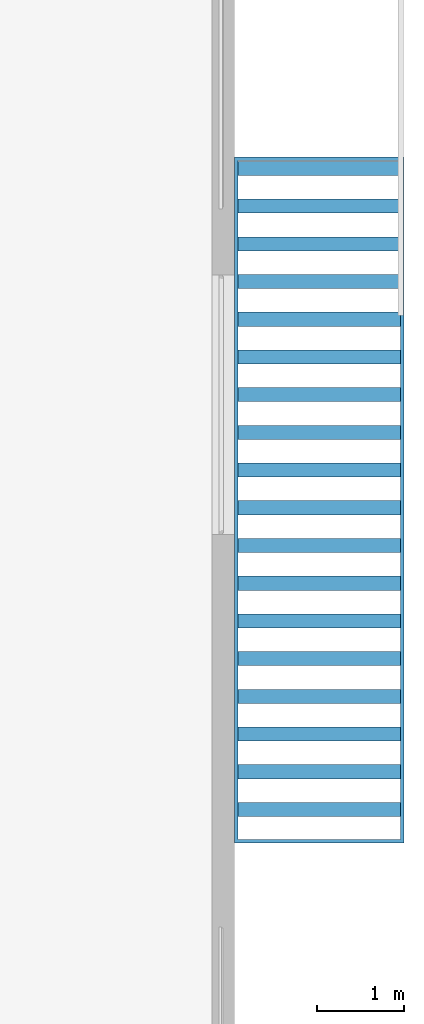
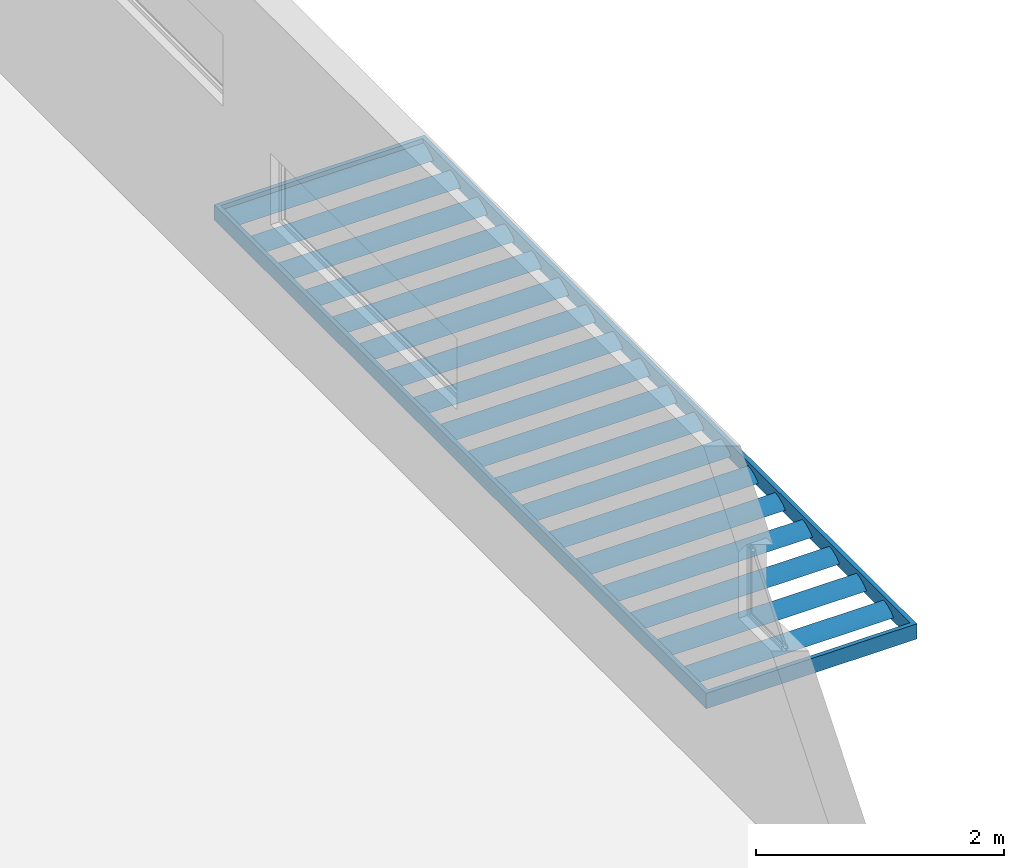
# One storey, part 13 of 14: 1 discrete accessory.
"""IFC2X3 building model written with IfcOpenShell, lengths in metres."""

import ifcopenshell
import ifcopenshell.guid

model = None  # the IFC model being written
_history = None  # IfcOwnerHistory: only IFC2X3 demands one
_inside = {}  # id of a spatial element -> (the spatial element, [elements in it])
_under = {}  # id of a project, library or spatial element -> (it, [spatial elements below it])
_declared = {}  # id of a project -> (the project, [libraries it declares])
_typed = {}  # id of a type object -> (the type object, [elements of that type])
_made_of = {}  # id of a material, layer set ... -> (it, [elements and type objects made of it])


def new_model(schema):
    """Start an empty IFC model of exactly this schema.

    Asked for "IFC4X3", IfcOpenShell would pick the latest addendum, in which some entities
    have other attributes; the version numbers below select the first issue.
    IFC2X3 requires an IfcOwnerHistory on every rooted entity: one is made here for all.
    """
    global model, _history
    if schema == "IFC4X3":
        model = ifcopenshell.file(schema_version=(4, 3, 0, 0))
    else:
        model = ifcopenshell.file(schema=schema)
    _inside.clear()
    _under.clear()
    _declared.clear()
    _typed.clear()
    _made_of.clear()
    _history = None
    if model.schema == "IFC2X3":
        org = make("IfcOrganization", Name="unknown")
        user = make(
            "IfcPersonAndOrganization",
            ThePerson=make("IfcPerson", FamilyName="unknown"),
            TheOrganization=org,
        )
        app = make(
            "IfcApplication",
            ApplicationDeveloper=org,
            Version="unknown",
            ApplicationFullName="unknown",
            ApplicationIdentifier="unknown",
        )
        _history = make(
            "IfcOwnerHistory",
            OwningUser=user,
            OwningApplication=app,
            ChangeAction="ADDED",
            CreationDate=0,
        )
    return model


def make(cls, **values):
    """One entity of the class cls with the attributes given. An attribute that is None is left unset."""
    return model.create_entity(
        cls, **{name: value for name, value in values.items() if value is not None}
    )


def entity(cls, *values):
    """Any entity or typed value of the class cls, its attributes in the order of the schema. None: left unset."""
    e = model.create_entity(cls)
    for i, value in enumerate(values):
        if value is not None:
            e[i] = value
    return e


def rooted(cls, **values):
    """An entity with a GlobalId (a new one), such as an element, a storey or a relation."""
    return make(cls, GlobalId=ifcopenshell.guid.new(), OwnerHistory=_history, **values)


def si_unit(unit_type, name, prefix=None):
    """IfcSIUnit, for example si_unit("LENGTHUNIT", "METRE", prefix="MILLI")."""
    return make("IfcSIUnit", UnitType=unit_type, Prefix=prefix, Name=name)


def converted_unit(unit_type, name, factor, base, dimensions=None, offset=None):
    """IfcConversionBasedUnit, such as the inch: factor (a typed value) times the base unit."""
    return make(
        "IfcConversionBasedUnit"
        if offset is None
        else "IfcConversionBasedUnitWithOffset",
        ConversionOffset=offset,
        Dimensions=None
        if dimensions is None
        else entity("IfcDimensionalExponents", *dimensions),
        UnitType=unit_type,
        Name=name,
        ConversionFactor=make(
            "IfcMeasureWithUnit", ValueComponent=factor, UnitComponent=base
        ),
    )


def money_unit(currency):
    """IfcMonetaryUnit."""
    return make("IfcMonetaryUnit", Currency=currency)


def assignment(units):
    """IfcUnitAssignment: the units of a project."""
    return None if units is None else make("IfcUnitAssignment", Units=units)


def point(xyz):
    """IfcCartesianPoint."""
    return None if xyz is None else make("IfcCartesianPoint", Coordinates=xyz)


def direction(xyz):
    """IfcDirection."""
    return None if xyz is None else make("IfcDirection", DirectionRatios=xyz)


def frame(location, z_axis=None, x_axis=None):
    """IfcAxis2Placement3D, a coordinate frame: its origin and axes. An axis left out is left unset."""
    return make(
        "IfcAxis2Placement3D",
        Location=point(location),
        Axis=direction(z_axis),
        RefDirection=direction(x_axis),
    )


def origin_with_axes():
    """The frame at (0, 0, 0) with the z axis (0, 0, 1) and the x axis (1, 0, 0) written out."""
    return frame((0.0, 0.0, 0.0), z_axis=(0.0, 0.0, 1.0), x_axis=(1.0, 0.0, 0.0))


def place(relative_to, where):
    """IfcLocalPlacement: puts the frame where relative to a parent placement (None: the world)."""
    return make(
        "IfcLocalPlacement", PlacementRelTo=relative_to, RelativePlacement=where
    )


def context(
    kind, dimensions, precision=None, world=None, true_north=None, identifier=None
):
    """IfcGeometricRepresentationContext, for example the 3D "Model" context."""
    return make(
        "IfcGeometricRepresentationContext",
        ContextIdentifier=identifier,
        ContextType=kind,
        CoordinateSpaceDimension=dimensions,
        Precision=precision,
        WorldCoordinateSystem=world,
        TrueNorth=true_north,
    )


def subcontext(parent, identifier, kind, view, scale=None):
    """IfcGeometricRepresentationSubContext, for example "Body" below "Model"."""
    return make(
        "IfcGeometricRepresentationSubContext",
        ContextIdentifier=identifier,
        ContextType=kind,
        ParentContext=parent,
        TargetScale=scale,
        TargetView=view,
    )


def project(units=None, contexts=None):
    """IfcProject with its units and contexts."""
    return rooted(
        "IfcProject",
        Name="project",
        RepresentationContexts=contexts,
        UnitsInContext=assignment(units),
    )


def spatial(cls, under=None, at=None, **own):
    """A site, building, storey or space (cls), placed at a placement, below another one or the project."""
    s = rooted(cls, ObjectPlacement=at, **own)
    if under is not None:
        _under.setdefault(under.id(), (under, []))[1].append(s)
    return s


def faces_of(points, faces, orient=None, outer=None):
    """IfcFace entities. A face is a list of loops; a loop is a list of indices into points, from 0.

    orient and outer hold one flag for each loop. By default every Orientation is true, the
    first loop of a face is its IfcFaceOuterBound and the others are IfcFaceBound.
    """
    made = []
    for i, loops in enumerate(faces):
        bounds = []
        for j, loop in enumerate(loops):
            is_outer = j == 0 if outer is None else outer[i][j]
            bounds.append(
                make(
                    "IfcFaceOuterBound" if is_outer else "IfcFaceBound",
                    Bound=make("IfcPolyLoop", Polygon=[points[k] for k in loop]),
                    Orientation=True if orient is None else orient[i][j],
                )
            )
        made.append(make("IfcFace", Bounds=bounds))
    return made


def faceted_brep(points, faces, orient=None, outer=None, voids=None):
    """IfcFacetedBrep: a solid bounded by flat faces; with voids (closed shells), ...WithVoids."""
    shared = [point(p) for p in points]
    hull = make("IfcClosedShell", CfsFaces=faces_of(shared, faces, orient, outer))
    if voids is None:
        return make("IfcFacetedBrep", Outer=hull)
    return make(
        "IfcFacetedBrepWithVoids",
        Outer=hull,
        Voids=[
            make(cls, CfsFaces=faces_of(shared, fs, o, b)) for cls, fs, o, b in voids
        ],
    )


def shape(context_of_items, identifier, shape_type, items):
    """IfcShapeRepresentation: the items that make up one representation, for example the "Body"."""
    return make(
        "IfcShapeRepresentation",
        ContextOfItems=context_of_items,
        RepresentationIdentifier=identifier,
        RepresentationType=shape_type,
        Items=items,
    )


def material(Name=None, Category=None):
    """IfcMaterial."""
    return make("IfcMaterial", Name=Name, Category=Category)


def made_of(thing, what):
    """Note that an element or type object is made of a material, layer set ...; save() writes the relation."""
    if what is not None:
        _made_of.setdefault(what.id(), (what, []))[1].append(thing)
    return thing


def type_object(cls, material=None, **own):
    """A type object (cls), such as IfcWallType, which elements share."""
    return made_of(rooted(cls, **own), material)


def element(
    cls,
    number,
    at=None,
    inside=None,
    cuts=None,
    type_object=None,
    material=None,
    context=None,
    identifier="Body",
    shape_type=None,
    held_by="IfcProductDefinitionShape",
    body=None,
    shapes=None,
    **own,
):
    """One element of the class cls, such as IfcWall. Its Tag is "e" and its number.

    at: its placement. inside: the storey or other place that contains it. cuts: it is an
    opening in that element (IfcRelVoidsElement). A single representation is given by context,
    identifier, shape_type and body (its items); several are given by shapes. held_by: the class
    of the entity that holds the representations. save() writes the other relations.
    """
    e = rooted(cls, Tag="e%d" % number, ObjectPlacement=at, **own)
    if body is not None:
        shapes = [shape(context, identifier, shape_type, body)]
    if shapes is not None:
        e.Representation = make(held_by, Representations=shapes)
    if inside is not None:
        _inside.setdefault(inside.id(), (inside, []))[1].append(e)
    if cuts is not None:
        rooted(
            "IfcRelVoidsElement", RelatingBuildingElement=cuts, RelatedOpeningElement=e
        )
    if type_object is not None:
        _typed.setdefault(type_object.id(), (type_object, []))[1].append(e)
    return made_of(e, material)


def aggregate(whole, parts):
    """IfcRelAggregates: a whole, such as a stair, and the parts it consists of."""
    return rooted("IfcRelAggregates", RelatingObject=whole, RelatedObjects=parts)


def save(model, path):
    """Write the relations noted so far, then the file.

    IfcRelAggregates (storeys below a building ...), IfcRelContainedInSpatialStructure (elements
    in a storey), IfcRelDefinesByType, IfcRelAssociatesMaterial and IfcRelDeclares: one each for
    every whole, place, type object, material and project.
    """
    for whole, parts in _under.values():
        aggregate(whole, parts)
    for where, things in _inside.values():
        rooted(
            "IfcRelContainedInSpatialStructure",
            RelatedElements=things,
            RelatingStructure=where,
        )
    for kind, things in _typed.values():
        rooted("IfcRelDefinesByType", RelatedObjects=things, RelatingType=kind)
    for what, things in _made_of.values():
        rooted("IfcRelAssociatesMaterial", RelatedObjects=things, RelatingMaterial=what)
    for by, libraries in _declared.values():
        rooted("IfcRelDeclares", RelatingContext=by, RelatedDefinitions=libraries)
    model.write(path)


model = new_model("IFC2X3")

# Units and contexts
model_context = context("Model", 3, precision=1e-05, world=origin_with_axes(), true_north=direction((0.0, 1.0)))
body_context = subcontext(model_context, "Body", "Model", "MODEL_VIEW")
ifc_project = project(units=[si_unit("LENGTHUNIT", "METRE"), si_unit("AREAUNIT", "SQUARE_METRE"), si_unit("VOLUMEUNIT", "CUBIC_METRE"), converted_unit("PLANEANGLEUNIT", "DEGREE", entity("IfcPlaneAngleMeasure", 0.0174532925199), si_unit("PLANEANGLEUNIT", "RADIAN"), dimensions=[0, 0, 0, 0, 0, 0, 0]), si_unit("SOLIDANGLEUNIT", "STERADIAN"), money_unit("EUR"), converted_unit("TIMEUNIT", "Year", entity("IfcTimeMeasure", 31556926.0), si_unit("TIMEUNIT", "SECOND"), dimensions=[0, 0, 0, 0, 0, 0, 0]), si_unit("MASSUNIT", "GRAM"), si_unit("THERMODYNAMICTEMPERATUREUNIT", "DEGREE_CELSIUS"), si_unit("LUMINOUSINTENSITYUNIT", "LUMEN")], contexts=[model_context])

# Site, building, storey
site_placement = place(None, origin_with_axes())
site = spatial("IfcSite", under=ifc_project, at=site_placement, Name="Site", CompositionType="ELEMENT")
building_placement = place(site_placement, origin_with_axes())
building = spatial("IfcBuilding", under=site, at=building_placement, Name="Bâtiment", CompositionType="ELEMENT")
storey_placement = place(building_placement, frame((0.0, 0.0, 3.0), z_axis=(0.0, 0.0, 1.0), x_axis=(1.0, 0.0, 0.0)))
storey = spatial("IfcBuildingStorey", under=building, at=storey_placement, Name="NIVEAU HAUT ENTRÉE", CompositionType="ELEMENT", Elevation=3.0)

# Discrete accessory
ifc_material = material(Name="Sans Trame")
discrete_accessory_type = type_object("IfcDiscreteAccessoryType", Name="Par soleil droit 10")
discrete_accessory_placement = place(storey_placement, frame((67.258457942, 10.1204598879, 0.356398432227), z_axis=(0.0, 0.0, 1.0), x_axis=(1.0, 0.0, 0.0)))
element("IfcDiscreteAccessory", 1, at=discrete_accessory_placement, inside=storey, type_object=discrete_accessory_type, material=ifc_material, Name="MOB-0009", context=body_context, shape_type="Brep", body=[
    faceted_brep([(0.04, 0.02, -0.075), (0.0, 0.02, -0.075), (0.0, 7.863911, -0.075), (0.04, 7.863911, -0.075), (0.04, 0.02, 0.075), (0.0, 0.02, 0.075), (0.0, 7.863911, 0.075), (0.04, 7.863911, 0.075)], [[[0, 1, 2, 3]], [[1, 0, 4, 5]], [[2, 1, 5, 6]], [[3, 2, 6, 7]], [[0, 3, 7, 4]], [[5, 4, 7, 6]]]),
    faceted_brep([(1.9583, 0.02, -0.075), (1.9183, 0.02, -0.075), (1.9183, 7.863911, -0.075), (1.9583, 7.863911, -0.075), (1.9583, 0.02, 0.075), (1.9183, 0.02, 0.075), (1.9183, 7.863911, 0.075), (1.9583, 7.863911, 0.075)], [[[0, 1, 2, 3]], [[1, 0, 4, 5]], [[2, 1, 5, 6]], [[3, 2, 6, 7]], [[0, 3, 7, 4]], [[5, 4, 7, 6]]]),
    faceted_brep([(1.9583, -0.02, -0.075), (0.0, -0.02, -0.075), (0.0, 0.02, -0.075), (1.9583, 0.02, -0.075), (1.9583, -0.02, 0.075), (0.0, -0.02, 0.075), (0.0, 0.02, 0.075), (1.9583, 0.02, 0.075)], [[[0, 1, 2, 3]], [[1, 0, 4, 5]], [[2, 1, 5, 6]], [[3, 2, 6, 7]], [[0, 3, 7, 4]], [[5, 4, 7, 6]]]),
    faceted_brep([(1.9583, 7.863911, -0.075), (0.0, 7.863911, -0.075), (0.0, 7.903911, -0.075), (1.9583, 7.903911, -0.075), (1.9583, 7.863911, 0.075), (0.0, 7.863911, 0.075), (0.0, 7.903911, 0.075), (1.9583, 7.903911, 0.075)], [[[0, 1, 2, 3]], [[1, 0, 4, 5]], [[2, 1, 5, 6]], [[3, 2, 6, 7]], [[0, 3, 7, 4]], [[5, 4, 7, 6]]]),
    faceted_brep([(0.04, 0.315621, -0.03442), (0.04, 0.344923, -0.026273), (1.9183, 0.344923, -0.026273), (1.9183, 0.315621, -0.03442), (0.04, 0.284205, -0.038036), (0.04, 0.307168, -0.016294), (0.04, 0.332244, 0.000916), (0.04, 0.386623, 0.026273), (0.04, 0.415925, 0.03442), (0.04, 0.447341, 0.038036), (0.04, 0.424378, 0.016294), (0.04, 0.399301, -0.000916), (1.9183, 0.399301, -0.000916), (1.9183, 0.424378, 0.016294), (1.9183, 0.447341, 0.038036), (1.9183, 0.415925, 0.03442), (1.9183, 0.386623, 0.026273), (1.9183, 0.332244, 0.000916), (1.9183, 0.307168, -0.016294), (1.9183, 0.284205, -0.038036)], [[[0, 1, 2, 3]], [[0, 4, 5, 6, 7, 8, 9, 10, 11, 1]], [[1, 11, 12, 2]], [[3, 2, 12, 13, 14, 15, 16, 17, 18, 19]], [[4, 0, 3, 19]], [[5, 4, 19, 18]], [[6, 5, 18, 17]], [[7, 6, 17, 16]], [[8, 7, 16, 15]], [[9, 8, 15, 14]], [[10, 9, 14, 13]], [[11, 10, 13, 12]]]),
    faceted_brep([(0.04, 0.751393, -0.03442), (0.04, 0.780696, -0.026273), (1.9183, 0.780696, -0.026273), (1.9183, 0.751393, -0.03442), (0.04, 0.719978, -0.038036), (0.04, 0.742941, -0.016294), (0.04, 0.768017, 0.000916), (0.04, 0.822396, 0.026273), (0.04, 0.851698, 0.03442), (0.04, 0.883113, 0.038036), (0.04, 0.86015, 0.016294), (0.04, 0.835074, -0.000916), (1.9183, 0.835074, -0.000916), (1.9183, 0.86015, 0.016294), (1.9183, 0.883113, 0.038036), (1.9183, 0.851698, 0.03442), (1.9183, 0.822396, 0.026273), (1.9183, 0.768017, 0.000916), (1.9183, 0.742941, -0.016294), (1.9183, 0.719978, -0.038036)], [[[0, 1, 2, 3]], [[0, 4, 5, 6, 7, 8, 9, 10, 11, 1]], [[1, 11, 12, 2]], [[3, 2, 12, 13, 14, 15, 16, 17, 18, 19]], [[4, 0, 3, 19]], [[5, 4, 19, 18]], [[6, 5, 18, 17]], [[7, 6, 17, 16]], [[8, 7, 16, 15]], [[9, 8, 15, 14]], [[10, 9, 14, 13]], [[11, 10, 13, 12]]]),
    faceted_brep([(0.04, 1.187166, -0.03442), (0.04, 1.216469, -0.026273), (1.9183, 1.216469, -0.026273), (1.9183, 1.187166, -0.03442), (0.04, 1.155751, -0.038036), (0.04, 1.178714, -0.016294), (0.04, 1.20379, 0.000916), (0.04, 1.258169, 0.026273), (0.04, 1.287471, 0.03442), (0.04, 1.318886, 0.038036), (0.04, 1.295923, 0.016294), (0.04, 1.270847, -0.000916), (1.9183, 1.270847, -0.000916), (1.9183, 1.295923, 0.016294), (1.9183, 1.318886, 0.038036), (1.9183, 1.287471, 0.03442), (1.9183, 1.258169, 0.026273), (1.9183, 1.20379, 0.000916), (1.9183, 1.178714, -0.016294), (1.9183, 1.155751, -0.038036)], [[[0, 1, 2, 3]], [[0, 4, 5, 6, 7, 8, 9, 10, 11, 1]], [[1, 11, 12, 2]], [[3, 2, 12, 13, 14, 15, 16, 17, 18, 19]], [[4, 0, 3, 19]], [[5, 4, 19, 18]], [[6, 5, 18, 17]], [[7, 6, 17, 16]], [[8, 7, 16, 15]], [[9, 8, 15, 14]], [[10, 9, 14, 13]], [[11, 10, 13, 12]]]),
    faceted_brep([(0.04, 1.622939, -0.03442), (0.04, 1.652241, -0.026273), (1.9183, 1.652241, -0.026273), (1.9183, 1.622939, -0.03442), (0.04, 1.591524, -0.038036), (0.04, 1.614487, -0.016294), (0.04, 1.639563, 0.000916), (0.04, 1.693941, 0.026273), (0.04, 1.723244, 0.03442), (0.04, 1.754659, 0.038036), (0.04, 1.731696, 0.016294), (0.04, 1.70662, -0.000916), (1.9183, 1.70662, -0.000916), (1.9183, 1.731696, 0.016294), (1.9183, 1.754659, 0.038036), (1.9183, 1.723244, 0.03442), (1.9183, 1.693941, 0.026273), (1.9183, 1.639563, 0.000916), (1.9183, 1.614487, -0.016294), (1.9183, 1.591524, -0.038036)], [[[0, 1, 2, 3]], [[0, 4, 5, 6, 7, 8, 9, 10, 11, 1]], [[1, 11, 12, 2]], [[3, 2, 12, 13, 14, 15, 16, 17, 18, 19]], [[4, 0, 3, 19]], [[5, 4, 19, 18]], [[6, 5, 18, 17]], [[7, 6, 17, 16]], [[8, 7, 16, 15]], [[9, 8, 15, 14]], [[10, 9, 14, 13]], [[11, 10, 13, 12]]]),
    faceted_brep([(0.04, 2.058712, -0.03442), (0.04, 2.088014, -0.026273), (1.9183, 2.088014, -0.026273), (1.9183, 2.058712, -0.03442), (0.04, 2.027297, -0.038036), (0.04, 2.05026, -0.016294), (0.04, 2.075336, 0.000916), (0.04, 2.129714, 0.026273), (0.04, 2.159017, 0.03442), (0.04, 2.190432, 0.038036), (0.04, 2.167469, 0.016294), (0.04, 2.142393, -0.000916), (1.9183, 2.142393, -0.000916), (1.9183, 2.167469, 0.016294), (1.9183, 2.190432, 0.038036), (1.9183, 2.159017, 0.03442), (1.9183, 2.129714, 0.026273), (1.9183, 2.075336, 0.000916), (1.9183, 2.05026, -0.016294), (1.9183, 2.027297, -0.038036)], [[[0, 1, 2, 3]], [[0, 4, 5, 6, 7, 8, 9, 10, 11, 1]], [[1, 11, 12, 2]], [[3, 2, 12, 13, 14, 15, 16, 17, 18, 19]], [[4, 0, 3, 19]], [[5, 4, 19, 18]], [[6, 5, 18, 17]], [[7, 6, 17, 16]], [[8, 7, 16, 15]], [[9, 8, 15, 14]], [[10, 9, 14, 13]], [[11, 10, 13, 12]]]),
    faceted_brep([(0.04, 2.494485, -0.03442), (0.04, 2.523787, -0.026273), (1.9183, 2.523787, -0.026273), (1.9183, 2.494485, -0.03442), (0.04, 2.463069, -0.038036), (0.04, 2.486032, -0.016294), (0.04, 2.511109, 0.000916), (0.04, 2.565487, 0.026273), (0.04, 2.594789, 0.03442), (0.04, 2.626205, 0.038036), (0.04, 2.603242, 0.016294), (0.04, 2.578166, -0.000916), (1.9183, 2.578166, -0.000916), (1.9183, 2.603242, 0.016294), (1.9183, 2.626205, 0.038036), (1.9183, 2.594789, 0.03442), (1.9183, 2.565487, 0.026273), (1.9183, 2.511109, 0.000916), (1.9183, 2.486032, -0.016294), (1.9183, 2.463069, -0.038036)], [[[0, 1, 2, 3]], [[0, 4, 5, 6, 7, 8, 9, 10, 11, 1]], [[1, 11, 12, 2]], [[3, 2, 12, 13, 14, 15, 16, 17, 18, 19]], [[4, 0, 3, 19]], [[5, 4, 19, 18]], [[6, 5, 18, 17]], [[7, 6, 17, 16]], [[8, 7, 16, 15]], [[9, 8, 15, 14]], [[10, 9, 14, 13]], [[11, 10, 13, 12]]]),
    faceted_brep([(0.04, 2.930258, -0.03442), (0.04, 2.95956, -0.026273), (1.9183, 2.95956, -0.026273), (1.9183, 2.930258, -0.03442), (0.04, 2.898842, -0.038036), (0.04, 2.921805, -0.016294), (0.04, 2.946881, 0.000916), (0.04, 3.00126, 0.026273), (0.04, 3.030562, 0.03442), (0.04, 3.061978, 0.038036), (0.04, 3.039015, 0.016294), (0.04, 3.013938, -0.000916), (1.9183, 3.013938, -0.000916), (1.9183, 3.039015, 0.016294), (1.9183, 3.061978, 0.038036), (1.9183, 3.030562, 0.03442), (1.9183, 3.00126, 0.026273), (1.9183, 2.946881, 0.000916), (1.9183, 2.921805, -0.016294), (1.9183, 2.898842, -0.038036)], [[[0, 1, 2, 3]], [[0, 4, 5, 6, 7, 8, 9, 10, 11, 1]], [[1, 11, 12, 2]], [[3, 2, 12, 13, 14, 15, 16, 17, 18, 19]], [[4, 0, 3, 19]], [[5, 4, 19, 18]], [[6, 5, 18, 17]], [[7, 6, 17, 16]], [[8, 7, 16, 15]], [[9, 8, 15, 14]], [[10, 9, 14, 13]], [[11, 10, 13, 12]]]),
    faceted_brep([(0.04, 3.366031, -0.03442), (0.04, 3.395333, -0.026273), (1.9183, 3.395333, -0.026273), (1.9183, 3.366031, -0.03442), (0.04, 3.334615, -0.038036), (0.04, 3.357578, -0.016294), (0.04, 3.382654, 0.000916), (0.04, 3.437033, 0.026273), (0.04, 3.466335, 0.03442), (0.04, 3.497751, 0.038036), (0.04, 3.474787, 0.016294), (0.04, 3.449711, -0.000916), (1.9183, 3.449711, -0.000916), (1.9183, 3.474787, 0.016294), (1.9183, 3.497751, 0.038036), (1.9183, 3.466335, 0.03442), (1.9183, 3.437033, 0.026273), (1.9183, 3.382654, 0.000916), (1.9183, 3.357578, -0.016294), (1.9183, 3.334615, -0.038036)], [[[0, 1, 2, 3]], [[0, 4, 5, 6, 7, 8, 9, 10, 11, 1]], [[1, 11, 12, 2]], [[3, 2, 12, 13, 14, 15, 16, 17, 18, 19]], [[4, 0, 3, 19]], [[5, 4, 19, 18]], [[6, 5, 18, 17]], [[7, 6, 17, 16]], [[8, 7, 16, 15]], [[9, 8, 15, 14]], [[10, 9, 14, 13]], [[11, 10, 13, 12]]]),
    faceted_brep([(0.04, 3.801803, -0.03442), (0.04, 3.831106, -0.026273), (1.9183, 3.831106, -0.026273), (1.9183, 3.801803, -0.03442), (0.04, 3.770388, -0.038036), (0.04, 3.793351, -0.016294), (0.04, 3.818427, 0.000916), (0.04, 3.872806, 0.026273), (0.04, 3.902108, 0.03442), (0.04, 3.933523, 0.038036), (0.04, 3.91056, 0.016294), (0.04, 3.885484, -0.000916), (1.9183, 3.885484, -0.000916), (1.9183, 3.91056, 0.016294), (1.9183, 3.933523, 0.038036), (1.9183, 3.902108, 0.03442), (1.9183, 3.872806, 0.026273), (1.9183, 3.818427, 0.000916), (1.9183, 3.793351, -0.016294), (1.9183, 3.770388, -0.038036)], [[[0, 1, 2, 3]], [[0, 4, 5, 6, 7, 8, 9, 10, 11, 1]], [[1, 11, 12, 2]], [[3, 2, 12, 13, 14, 15, 16, 17, 18, 19]], [[4, 0, 3, 19]], [[5, 4, 19, 18]], [[6, 5, 18, 17]], [[7, 6, 17, 16]], [[8, 7, 16, 15]], [[9, 8, 15, 14]], [[10, 9, 14, 13]], [[11, 10, 13, 12]]]),
    faceted_brep([(0.04, 4.237576, -0.03442), (0.04, 4.266879, -0.026273), (1.9183, 4.266879, -0.026273), (1.9183, 4.237576, -0.03442), (0.04, 4.206161, -0.038036), (0.04, 4.229124, -0.016294), (0.04, 4.2542, 0.000916), (0.04, 4.308579, 0.026273), (0.04, 4.337881, 0.03442), (0.04, 4.369296, 0.038036), (0.04, 4.346333, 0.016294), (0.04, 4.321257, -0.000916), (1.9183, 4.321257, -0.000916), (1.9183, 4.346333, 0.016294), (1.9183, 4.369296, 0.038036), (1.9183, 4.337881, 0.03442), (1.9183, 4.308579, 0.026273), (1.9183, 4.2542, 0.000916), (1.9183, 4.229124, -0.016294), (1.9183, 4.206161, -0.038036)], [[[0, 1, 2, 3]], [[0, 4, 5, 6, 7, 8, 9, 10, 11, 1]], [[1, 11, 12, 2]], [[3, 2, 12, 13, 14, 15, 16, 17, 18, 19]], [[4, 0, 3, 19]], [[5, 4, 19, 18]], [[6, 5, 18, 17]], [[7, 6, 17, 16]], [[8, 7, 16, 15]], [[9, 8, 15, 14]], [[10, 9, 14, 13]], [[11, 10, 13, 12]]]),
    faceted_brep([(0.04, 4.673349, -0.03442), (0.04, 4.702651, -0.026273), (1.9183, 4.702651, -0.026273), (1.9183, 4.673349, -0.03442), (0.04, 4.641934, -0.038036), (0.04, 4.664897, -0.016294), (0.04, 4.689973, 0.000916), (0.04, 4.744351, 0.026273), (0.04, 4.773654, 0.03442), (0.04, 4.805069, 0.038036), (0.04, 4.782106, 0.016294), (0.04, 4.75703, -0.000916), (1.9183, 4.75703, -0.000916), (1.9183, 4.782106, 0.016294), (1.9183, 4.805069, 0.038036), (1.9183, 4.773654, 0.03442), (1.9183, 4.744351, 0.026273), (1.9183, 4.689973, 0.000916), (1.9183, 4.664897, -0.016294), (1.9183, 4.641934, -0.038036)], [[[0, 1, 2, 3]], [[0, 4, 5, 6, 7, 8, 9, 10, 11, 1]], [[1, 11, 12, 2]], [[3, 2, 12, 13, 14, 15, 16, 17, 18, 19]], [[4, 0, 3, 19]], [[5, 4, 19, 18]], [[6, 5, 18, 17]], [[7, 6, 17, 16]], [[8, 7, 16, 15]], [[9, 8, 15, 14]], [[10, 9, 14, 13]], [[11, 10, 13, 12]]]),
    faceted_brep([(0.04, 5.109122, -0.03442), (0.04, 5.138424, -0.026273), (1.9183, 5.138424, -0.026273), (1.9183, 5.109122, -0.03442), (0.04, 5.077707, -0.038036), (0.04, 5.10067, -0.016294), (0.04, 5.125746, 0.000916), (0.04, 5.180124, 0.026273), (0.04, 5.209427, 0.03442), (0.04, 5.240842, 0.038036), (0.04, 5.217879, 0.016294), (0.04, 5.192803, -0.000916), (1.9183, 5.192803, -0.000916), (1.9183, 5.217879, 0.016294), (1.9183, 5.240842, 0.038036), (1.9183, 5.209427, 0.03442), (1.9183, 5.180124, 0.026273), (1.9183, 5.125746, 0.000916), (1.9183, 5.10067, -0.016294), (1.9183, 5.077707, -0.038036)], [[[0, 1, 2, 3]], [[0, 4, 5, 6, 7, 8, 9, 10, 11, 1]], [[1, 11, 12, 2]], [[3, 2, 12, 13, 14, 15, 16, 17, 18, 19]], [[4, 0, 3, 19]], [[5, 4, 19, 18]], [[6, 5, 18, 17]], [[7, 6, 17, 16]], [[8, 7, 16, 15]], [[9, 8, 15, 14]], [[10, 9, 14, 13]], [[11, 10, 13, 12]]]),
    faceted_brep([(0.04, 5.544895, -0.03442), (0.04, 5.574197, -0.026273), (1.9183, 5.574197, -0.026273), (1.9183, 5.544895, -0.03442), (0.04, 5.513479, -0.038036), (0.04, 5.536442, -0.016294), (0.04, 5.561519, 0.000916), (0.04, 5.615897, 0.026273), (0.04, 5.645199, 0.03442), (0.04, 5.676615, 0.038036), (0.04, 5.653652, 0.016294), (0.04, 5.628576, -0.000916), (1.9183, 5.628576, -0.000916), (1.9183, 5.653652, 0.016294), (1.9183, 5.676615, 0.038036), (1.9183, 5.645199, 0.03442), (1.9183, 5.615897, 0.026273), (1.9183, 5.561519, 0.000916), (1.9183, 5.536442, -0.016294), (1.9183, 5.513479, -0.038036)], [[[0, 1, 2, 3]], [[0, 4, 5, 6, 7, 8, 9, 10, 11, 1]], [[1, 11, 12, 2]], [[3, 2, 12, 13, 14, 15, 16, 17, 18, 19]], [[4, 0, 3, 19]], [[5, 4, 19, 18]], [[6, 5, 18, 17]], [[7, 6, 17, 16]], [[8, 7, 16, 15]], [[9, 8, 15, 14]], [[10, 9, 14, 13]], [[11, 10, 13, 12]]]),
    faceted_brep([(0.04, 5.980668, -0.03442), (0.04, 6.00997, -0.026273), (1.9183, 6.00997, -0.026273), (1.9183, 5.980668, -0.03442), (0.04, 5.949252, -0.038036), (0.04, 5.972215, -0.016294), (0.04, 5.997291, 0.000916), (0.04, 6.05167, 0.026273), (0.04, 6.080972, 0.03442), (0.04, 6.112388, 0.038036), (0.04, 6.089425, 0.016294), (0.04, 6.064348, -0.000916), (1.9183, 6.064348, -0.000916), (1.9183, 6.089425, 0.016294), (1.9183, 6.112388, 0.038036), (1.9183, 6.080972, 0.03442), (1.9183, 6.05167, 0.026273), (1.9183, 5.997291, 0.000916), (1.9183, 5.972215, -0.016294), (1.9183, 5.949252, -0.038036)], [[[0, 1, 2, 3]], [[0, 4, 5, 6, 7, 8, 9, 10, 11, 1]], [[1, 11, 12, 2]], [[3, 2, 12, 13, 14, 15, 16, 17, 18, 19]], [[4, 0, 3, 19]], [[5, 4, 19, 18]], [[6, 5, 18, 17]], [[7, 6, 17, 16]], [[8, 7, 16, 15]], [[9, 8, 15, 14]], [[10, 9, 14, 13]], [[11, 10, 13, 12]]]),
    faceted_brep([(0.04, 6.416441, -0.03442), (0.04, 6.445743, -0.026273), (1.9183, 6.445743, -0.026273), (1.9183, 6.416441, -0.03442), (0.04, 6.385025, -0.038036), (0.04, 6.407988, -0.016294), (0.04, 6.433064, 0.000916), (0.04, 6.487443, 0.026273), (0.04, 6.516745, 0.03442), (0.04, 6.548161, 0.038036), (0.04, 6.525197, 0.016294), (0.04, 6.500121, -0.000916), (1.9183, 6.500121, -0.000916), (1.9183, 6.525197, 0.016294), (1.9183, 6.548161, 0.038036), (1.9183, 6.516745, 0.03442), (1.9183, 6.487443, 0.026273), (1.9183, 6.433064, 0.000916), (1.9183, 6.407988, -0.016294), (1.9183, 6.385025, -0.038036)], [[[0, 1, 2, 3]], [[0, 4, 5, 6, 7, 8, 9, 10, 11, 1]], [[1, 11, 12, 2]], [[3, 2, 12, 13, 14, 15, 16, 17, 18, 19]], [[4, 0, 3, 19]], [[5, 4, 19, 18]], [[6, 5, 18, 17]], [[7, 6, 17, 16]], [[8, 7, 16, 15]], [[9, 8, 15, 14]], [[10, 9, 14, 13]], [[11, 10, 13, 12]]]),
    faceted_brep([(0.04, 6.852213, -0.03442), (0.04, 6.881516, -0.026273), (1.9183, 6.881516, -0.026273), (1.9183, 6.852213, -0.03442), (0.04, 6.820798, -0.038036), (0.04, 6.843761, -0.016294), (0.04, 6.868837, 0.000916), (0.04, 6.923216, 0.026273), (0.04, 6.952518, 0.03442), (0.04, 6.983933, 0.038036), (0.04, 6.96097, 0.016294), (0.04, 6.935894, -0.000916), (1.9183, 6.935894, -0.000916), (1.9183, 6.96097, 0.016294), (1.9183, 6.983933, 0.038036), (1.9183, 6.952518, 0.03442), (1.9183, 6.923216, 0.026273), (1.9183, 6.868837, 0.000916), (1.9183, 6.843761, -0.016294), (1.9183, 6.820798, -0.038036)], [[[0, 1, 2, 3]], [[0, 4, 5, 6, 7, 8, 9, 10, 11, 1]], [[1, 11, 12, 2]], [[3, 2, 12, 13, 14, 15, 16, 17, 18, 19]], [[4, 0, 3, 19]], [[5, 4, 19, 18]], [[6, 5, 18, 17]], [[7, 6, 17, 16]], [[8, 7, 16, 15]], [[9, 8, 15, 14]], [[10, 9, 14, 13]], [[11, 10, 13, 12]]]),
    faceted_brep([(0.04, 7.287986, -0.03442), (0.04, 7.317289, -0.026273), (1.9183, 7.317289, -0.026273), (1.9183, 7.287986, -0.03442), (0.04, 7.256571, -0.038036), (0.04, 7.279534, -0.016294), (0.04, 7.30461, 0.000916), (0.04, 7.358988, 0.026273), (0.04, 7.388291, 0.03442), (0.04, 7.419706, 0.038036), (0.04, 7.396743, 0.016294), (0.04, 7.371667, -0.000916), (1.9183, 7.371667, -0.000916), (1.9183, 7.396743, 0.016294), (1.9183, 7.419706, 0.038036), (1.9183, 7.388291, 0.03442), (1.9183, 7.358988, 0.026273), (1.9183, 7.30461, 0.000916), (1.9183, 7.279534, -0.016294), (1.9183, 7.256571, -0.038036)], [[[0, 1, 2, 3]], [[0, 4, 5, 6, 7, 8, 9, 10, 11, 1]], [[1, 11, 12, 2]], [[3, 2, 12, 13, 14, 15, 16, 17, 18, 19]], [[4, 0, 3, 19]], [[5, 4, 19, 18]], [[6, 5, 18, 17]], [[7, 6, 17, 16]], [[8, 7, 16, 15]], [[9, 8, 15, 14]], [[10, 9, 14, 13]], [[11, 10, 13, 12]]]),
    faceted_brep([(0.04, 7.723759, -0.03442), (0.04, 7.753061, -0.026273), (1.9183, 7.753061, -0.026273), (1.9183, 7.723759, -0.03442), (0.04, 7.692344, -0.038036), (0.04, 7.715307, -0.016294), (0.04, 7.740383, 0.000916), (0.04, 7.794761, 0.026273), (0.04, 7.824064, 0.03442), (0.04, 7.855479, 0.038036), (0.04, 7.832516, 0.016294), (0.04, 7.80744, -0.000916), (1.9183, 7.80744, -0.000916), (1.9183, 7.832516, 0.016294), (1.9183, 7.855479, 0.038036), (1.9183, 7.824064, 0.03442), (1.9183, 7.794761, 0.026273), (1.9183, 7.740383, 0.000916), (1.9183, 7.715307, -0.016294), (1.9183, 7.692344, -0.038036)], [[[0, 1, 2, 3]], [[0, 4, 5, 6, 7, 8, 9, 10, 11, 1]], [[1, 11, 12, 2]], [[3, 2, 12, 13, 14, 15, 16, 17, 18, 19]], [[4, 0, 3, 19]], [[5, 4, 19, 18]], [[6, 5, 18, 17]], [[7, 6, 17, 16]], [[8, 7, 16, 15]], [[9, 8, 15, 14]], [[10, 9, 14, 13]], [[11, 10, 13, 12]]]),
])

save(model, "model.ifc")
